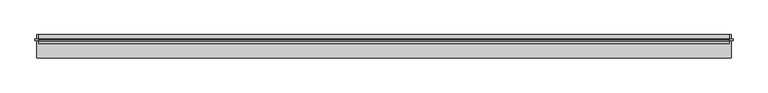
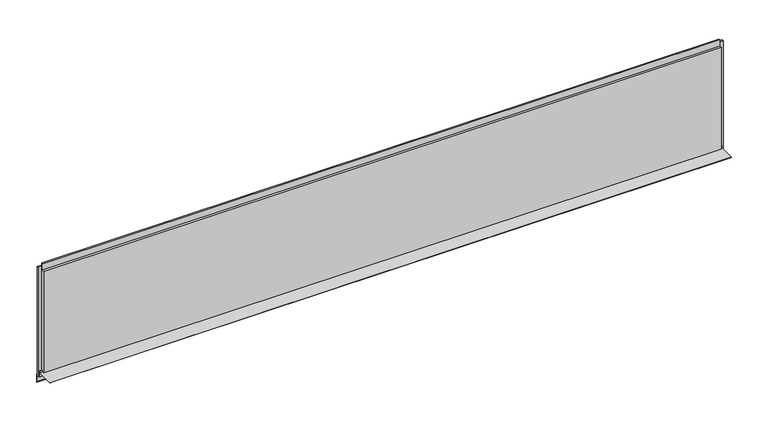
"""IFC4 building model written with IfcOpenShell, lengths in millimetres: plate geometry, Trimo_Qbiss Screen_Normal Panel-HORIZONTAL : HR - B."""

from ifc_helpers import new_model, si_unit, frame, origin, place, context, project, spatial, polyline, outline, extrude, source, transform, mapped, element, save


def plate_05e8105e(model_context):
    return source(origin(), model_context, "Body", "SweptSolid", [
        extrude(outline(polyline([(66.7, 14.0835797), (67.5, 14.0835797), (67.5, -23.0), (100.0, -25.8433816), (100.0, -76.0), (87.1509533, -63.1509533), (87.7166388, -62.5852679), (99.2, -74.0686292), (99.2, -26.5764465), (66.7, -23.7330649), (66.7, 1.0), (-32.5, 1.0), (-32.5, 1.8), (66.7, 1.8), (66.7, 14.0835797)])), frame((-1963.8659129, 0.0, 0.0), z_axis=(1.0, 0.0, 0.0), x_axis=(0.0, 1.0, 0.0)), (0.0, 0.0, 1.0), 3927.7318258),
        extrude(outline(polyline([(-1954.3659129, 76.5978162), (-1954.3659129, 67.8978162), (-1973.3659129, 67.8978162), (-1973.3659129, 76.5978162), (-1954.3659129, 76.5978162)])), frame((0.0, 0.0, -20.0), z_axis=(0.0, 0.0, 1.0), x_axis=(1.0, 0.0, 0.0)), (0.0, 0.0, 1.0), 669.0),
        extrude(outline(polyline([(1954.3659129, 67.8978162), (1954.3659129, 76.5978162), (1973.3659129, 76.5978162), (1973.3659129, 67.8978162), (1954.3659129, 67.8978162)])), frame((0.0, 0.0, -20.0), z_axis=(0.0, 0.0, 1.0), x_axis=(1.0, 0.0, 0.0)), (0.0, 0.0, 1.0), 669.0),
        extrude(outline(polyline([(1951.3659129, 76.0), (1951.3659129, 71.0), (-1951.3659129, 71.0), (-1951.3659129, 76.0), (1951.3659129, 76.0)])), frame((0.0, 0.0, 628.0), z_axis=(0.0, 0.0, 1.0), x_axis=(1.0, 0.0, 0.0)), (0.0, 0.0, 1.0), 21.0),
        extrude(outline(polyline([(71.0, 627.0), (100.0, 627.0), (100.0, 0.0), (72.0, 0.0), (72.0, 15.5), (62.0, 15.5), (62.0, 7.0), (50.0, 7.0), (50.0, 627.0), (63.0, 627.0), (63.0, 664.5), (71.0, 664.5), (71.0, 627.0)])), frame((-1951.3659129, 0.0, 0.0), z_axis=(1.0, 0.0, 0.0), x_axis=(0.0, 1.0, 0.0)), (0.0, 0.0, 1.0), 3902.7318258),
    ])


if __name__ == "__main__":
    model = new_model("IFC4")
    model_context = context("Model", 3, world=origin())
    ifc_project = project(units=[si_unit("LENGTHUNIT", "METRE", prefix="MILLI")], contexts=[model_context])
    site = spatial("IfcSite", under=ifc_project)
    building = spatial("IfcBuilding", under=site)
    placement = place(None, origin())
    plate_shape = plate_05e8105e(model_context)
    element("IfcPlate", 1, ObjectType="Trimo_Qbiss Screen_Normal Panel-HORIZONTAL : HR - B", at=placement, inside=building, context=model_context, shape_type="MappedRepresentation", body=[
        mapped(plate_shape, transform((0.0, 0.0, 0.0), x_axis=(1.0, 0.0, 0.0), y_axis=(0.0, 1.0, 0.0), z_axis=(0.0, 0.0, 1.0))),
    ])
    save(model, "model.ifc")
